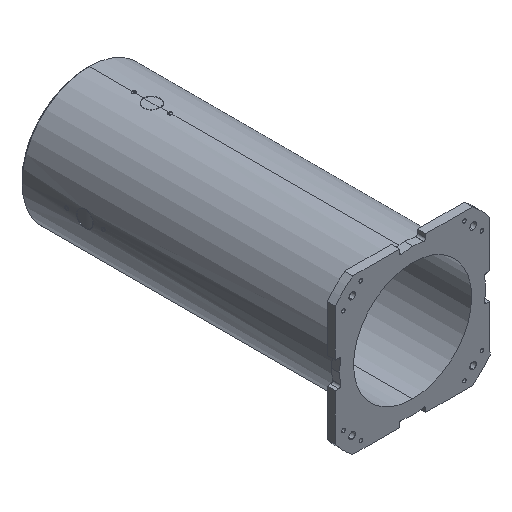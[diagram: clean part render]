
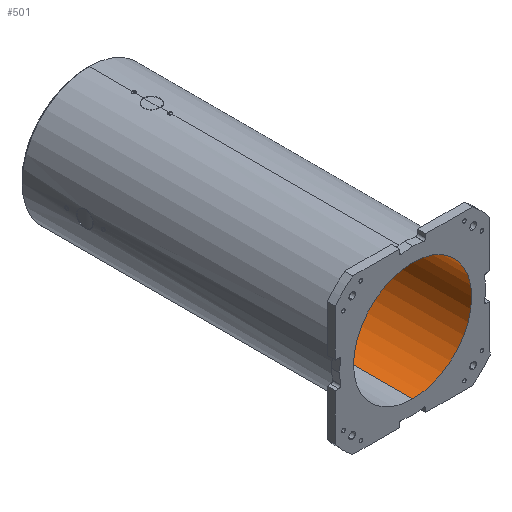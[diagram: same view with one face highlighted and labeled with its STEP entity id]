
A CAD part, isometric view. The second image highlights one B-rep face of the part: STEP entity #501.
In plain terms, the highlighted cylindrical face has radius 145 mm (diameter 290 mm), a partial arc.
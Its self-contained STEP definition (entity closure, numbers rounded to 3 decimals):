
#501 = ADVANCED_FACE ( 'NONE', ( #4432 ), #9103, .F. ) ;
#545 = ORIENTED_EDGE ( 'NONE', *, *, #977, .T. ) ;
#839 = ORIENTED_EDGE ( 'NONE', *, *, #9483, .T. ) ;
#977 = EDGE_CURVE ( 'NONE', #11058, #6523, #12476, .T. ) ;
#1387 = DIRECTION ( 'NONE',  ( 0., 1., 0. ) ) ;
#2157 = CARTESIAN_POINT ( 'NONE',  ( 0., 0., -145. ) ) ;
#2619 = VERTEX_POINT ( 'NONE', #2157 ) ;
#3543 = DIRECTION ( 'NONE',  ( 0., 0., 1. ) ) ;
#4210 = AXIS2_PLACEMENT_3D ( 'NONE', #8347, #1387, #9302 ) ;
#4432 = FACE_OUTER_BOUND ( 'NONE', #9282, .T. ) ;
#4770 = CARTESIAN_POINT ( 'NONE',  ( 0., 0., -145. ) ) ;
#5087 = EDGE_CURVE ( 'NONE', #11058, #2619, #7577, .T. ) ;
#5360 = CIRCLE ( 'NONE', #8626, 145. ) ;
#5959 = DIRECTION ( 'NONE',  ( 0., 0., 1. ) ) ;
#6284 = CARTESIAN_POINT ( 'NONE',  ( 0., 782., -145. ) ) ;
#6523 = VERTEX_POINT ( 'NONE', #7388 ) ;
#7388 = CARTESIAN_POINT ( 'NONE',  ( 0., 782., 145. ) ) ;
#7416 = CARTESIAN_POINT ( 'NONE',  ( 0., 0., 145. ) ) ;
#7503 = CARTESIAN_POINT ( 'NONE',  ( 0., 782., 0. ) ) ;
#7577 = CIRCLE ( 'NONE', #8612, 145. ) ;
#7636 = DIRECTION ( 'NONE',  ( 0., 1., 0. ) ) ;
#7677 = ORIENTED_EDGE ( 'NONE', *, *, #5087, .F. ) ;
#8135 = EDGE_CURVE ( 'NONE', #2619, #10601, #8639, .T. ) ;
#8347 = CARTESIAN_POINT ( 'NONE',  ( 0., 0., 0. ) ) ;
#8510 = CARTESIAN_POINT ( 'NONE',  ( 0., 0., 145. ) ) ;
#8612 = AXIS2_PLACEMENT_3D ( 'NONE', #11777, #10799, #5959 ) ;
#8626 = AXIS2_PLACEMENT_3D ( 'NONE', #7503, #7636, #3543 ) ;
#8639 = LINE ( 'NONE', #4770, #11490 ) ;
#9103 = CYLINDRICAL_SURFACE ( 'NONE', #4210, 145. ) ;
#9282 = EDGE_LOOP ( 'NONE', ( #10441, #7677, #545, #839 ) ) ;
#9302 = DIRECTION ( 'NONE',  ( 0., 0., 1. ) ) ;
#9483 = EDGE_CURVE ( 'NONE', #6523, #10601, #5360, .T. ) ;
#9527 = DIRECTION ( 'NONE',  ( 0., 1., 0. ) ) ;
#10235 = DIRECTION ( 'NONE',  ( 0., 1., 0. ) ) ;
#10441 = ORIENTED_EDGE ( 'NONE', *, *, #8135, .F. ) ;
#10601 = VERTEX_POINT ( 'NONE', #6284 ) ;
#10799 = DIRECTION ( 'NONE',  ( 0., 1., 0. ) ) ;
#11058 = VERTEX_POINT ( 'NONE', #8510 ) ;
#11490 = VECTOR ( 'NONE', #9527, 1000. ) ;
#11777 = CARTESIAN_POINT ( 'NONE',  ( 0., 0., 0. ) ) ;
#11795 = VECTOR ( 'NONE', #10235, 1000. ) ;
#12476 = LINE ( 'NONE', #7416, #11795 ) ;
